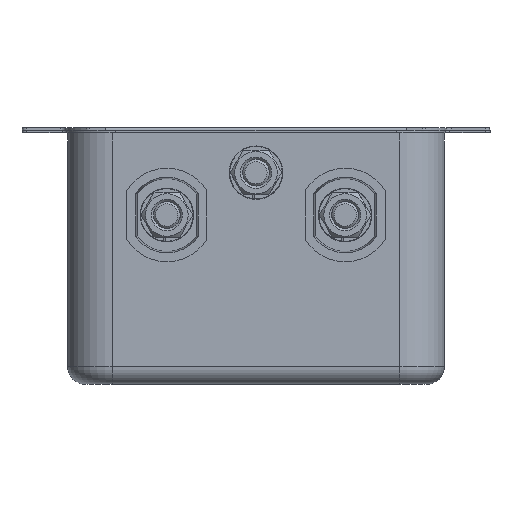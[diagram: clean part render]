
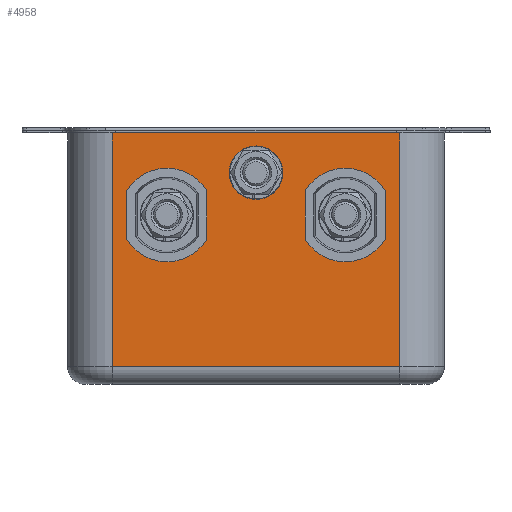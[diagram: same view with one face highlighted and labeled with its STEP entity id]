
A CAD part, left-side view. The second image highlights one B-rep face of the part: STEP entity #4958.
In plain terms, the highlighted planar face has unit normal (-1, 0, 0).
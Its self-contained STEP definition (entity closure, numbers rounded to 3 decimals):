
#4832=CARTESIAN_POINT('',(-49.25,0.,42.726));
#4833=VERTEX_POINT('',#4832);
#4834=CARTESIAN_POINT('',(-49.25,0.,47.5));
#4835=DIRECTION('',(1.0,0.0,0.0));
#4836=DIRECTION('',(0.0,0.0,1.0));
#4837=AXIS2_PLACEMENT_3D('',#4834,#4835,#4836);
#4838=CIRCLE('',#4837,4.774);
#4839=EDGE_CURVE('',#4833,#4833,#4838,.T.);
#4844=CARTESIAN_POINT('',(-49.25,-42.25,0.0));
#4845=DIRECTION('',(-1.0,0.0,0.0));
#4846=DIRECTION('',(0.0,0.0,1.0));
#4847=AXIS2_PLACEMENT_3D('',#4844,#4845,#4846);
#4848=PLANE('',#4847);
#4849=CARTESIAN_POINT('',(-49.25,-32.25,56.4));
#4850=VERTEX_POINT('',#4849);
#4851=CARTESIAN_POINT('',(-49.25,32.25,56.4));
#4852=VERTEX_POINT('',#4851);
#4853=CARTESIAN_POINT('',(-49.25,-32.25,56.4));
#4854=DIRECTION('',(0.0,1.0,0.0));
#4855=VECTOR('',#4854,64.5);
#4856=LINE('',#4853,#4855);
#4857=EDGE_CURVE('',#4850,#4852,#4856,.T.);
#4858=ORIENTED_EDGE('',*,*,#4857,.T.);
#4859=CARTESIAN_POINT('',(-49.25,32.25,4.0));
#4860=VERTEX_POINT('',#4859);
#4861=CARTESIAN_POINT('',(-49.25,32.25,4.0));
#4862=DIRECTION('',(0.0,0.0,1.0));
#4863=VECTOR('',#4862,52.4);
#4864=LINE('',#4861,#4863);
#4865=EDGE_CURVE('',#4860,#4852,#4864,.T.);
#4866=ORIENTED_EDGE('',*,*,#4865,.F.);
#4867=CARTESIAN_POINT('',(-49.25,-32.25,4.0));
#4868=VERTEX_POINT('',#4867);
#4869=CARTESIAN_POINT('',(-49.25,-32.25,4.0));
#4870=DIRECTION('',(0.0,1.0,0.0));
#4871=VECTOR('',#4870,64.5);
#4872=LINE('',#4869,#4871);
#4873=EDGE_CURVE('',#4868,#4860,#4872,.T.);
#4874=ORIENTED_EDGE('',*,*,#4873,.F.);
#4875=CARTESIAN_POINT('',(-49.25,-32.25,56.4));
#4876=DIRECTION('',(0.0,0.0,-1.0));
#4877=VECTOR('',#4876,52.4);
#4878=LINE('',#4875,#4877);
#4879=EDGE_CURVE('',#4850,#4868,#4878,.T.);
#4880=ORIENTED_EDGE('',*,*,#4879,.F.);
#4881=EDGE_LOOP('',(#4858,#4866,#4874,#4880));
#4882=FACE_OUTER_BOUND('',#4881,.T.);
#4883=CARTESIAN_POINT('',(-49.25,-11.,40.136));
#4884=VERTEX_POINT('',#4883);
#4885=CARTESIAN_POINT('',(-49.25,-29.,40.136));
#4886=VERTEX_POINT('',#4885);
#4887=CARTESIAN_POINT('',(-49.25,-20.0,38.));
#4888=DIRECTION('',(1.0,0.0,0.0));
#4889=DIRECTION('',(0.0,0.973,0.231));
#4890=AXIS2_PLACEMENT_3D('',#4887,#4888,#4889);
#4891=CIRCLE('',#4890,9.25);
#4892=EDGE_CURVE('',#4884,#4886,#4891,.T.);
#4893=ORIENTED_EDGE('',*,*,#4892,.T.);
#4894=CARTESIAN_POINT('',(-49.25,-29.,35.864));
#4895=VERTEX_POINT('',#4894);
#4896=CARTESIAN_POINT('',(-49.25,-29.,40.136));
#4897=DIRECTION('',(0.0,0.0,-1.0));
#4898=VECTOR('',#4897,4.272);
#4899=LINE('',#4896,#4898);
#4900=EDGE_CURVE('',#4886,#4895,#4899,.T.);
#4901=ORIENTED_EDGE('',*,*,#4900,.T.);
#4902=CARTESIAN_POINT('',(-49.25,-11.,35.864));
#4903=VERTEX_POINT('',#4902);
#4904=CARTESIAN_POINT('',(-49.25,-20.0,38.));
#4905=DIRECTION('',(1.,0.0,0.0));
#4906=DIRECTION('',(0.0,-0.973,-0.231));
#4907=AXIS2_PLACEMENT_3D('',#4904,#4905,#4906);
#4908=CIRCLE('',#4907,9.25);
#4909=EDGE_CURVE('',#4895,#4903,#4908,.T.);
#4910=ORIENTED_EDGE('',*,*,#4909,.T.);
#4911=CARTESIAN_POINT('',(-49.25,-11.0,35.864));
#4912=DIRECTION('',(0.0,0.0,1.0));
#4913=VECTOR('',#4912,4.272);
#4914=LINE('',#4911,#4913);
#4915=EDGE_CURVE('',#4903,#4884,#4914,.T.);
#4916=ORIENTED_EDGE('',*,*,#4915,.T.);
#4917=EDGE_LOOP('',(#4893,#4901,#4910,#4916));
#4918=FACE_BOUND('',#4917,.T.);
#4919=CARTESIAN_POINT('',(-49.25,29.,40.136));
#4920=VERTEX_POINT('',#4919);
#4921=CARTESIAN_POINT('',(-49.25,11.,40.136));
#4922=VERTEX_POINT('',#4921);
#4923=CARTESIAN_POINT('',(-49.25,20.,38.));
#4924=DIRECTION('',(1.0,0.0,0.0));
#4925=DIRECTION('',(0.0,0.973,0.231));
#4926=AXIS2_PLACEMENT_3D('',#4923,#4924,#4925);
#4927=CIRCLE('',#4926,9.25);
#4928=EDGE_CURVE('',#4920,#4922,#4927,.T.);
#4929=ORIENTED_EDGE('',*,*,#4928,.T.);
#4930=CARTESIAN_POINT('',(-49.25,11.,35.864));
#4931=VERTEX_POINT('',#4930);
#4932=CARTESIAN_POINT('',(-49.25,11.,40.136));
#4933=DIRECTION('',(0.0,0.0,-1.0));
#4934=VECTOR('',#4933,4.272);
#4935=LINE('',#4932,#4934);
#4936=EDGE_CURVE('',#4922,#4931,#4935,.T.);
#4937=ORIENTED_EDGE('',*,*,#4936,.T.);
#4938=CARTESIAN_POINT('',(-49.25,29.,35.864));
#4939=VERTEX_POINT('',#4938);
#4940=CARTESIAN_POINT('',(-49.25,20.,38.));
#4941=DIRECTION('',(1.0,0.0,0.0));
#4942=DIRECTION('',(0.0,-0.973,-0.231));
#4943=AXIS2_PLACEMENT_3D('',#4940,#4941,#4942);
#4944=CIRCLE('',#4943,9.25);
#4945=EDGE_CURVE('',#4931,#4939,#4944,.T.);
#4946=ORIENTED_EDGE('',*,*,#4945,.T.);
#4947=CARTESIAN_POINT('',(-49.25,29.,35.864));
#4948=DIRECTION('',(0.0,0.0,1.0));
#4949=VECTOR('',#4948,4.272);
#4950=LINE('',#4947,#4949);
#4951=EDGE_CURVE('',#4939,#4920,#4950,.T.);
#4952=ORIENTED_EDGE('',*,*,#4951,.T.);
#4953=EDGE_LOOP('',(#4929,#4937,#4946,#4952));
#4954=FACE_BOUND('',#4953,.T.);
#4955=ORIENTED_EDGE('',*,*,#4839,.T.);
#4956=EDGE_LOOP('',(#4955));
#4957=FACE_BOUND('',#4956,.T.);
#4958=ADVANCED_FACE('',(#4882,#4918,#4954,#4957),#4848,.T.);
